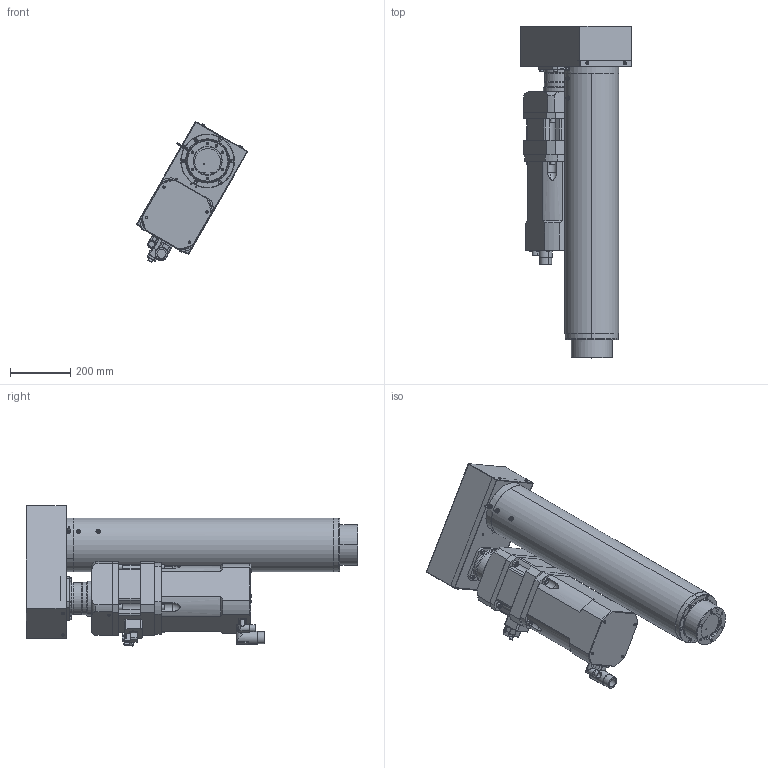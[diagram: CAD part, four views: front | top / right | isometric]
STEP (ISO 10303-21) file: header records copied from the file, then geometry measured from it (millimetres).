
FILE_DESCRIPTION (( 'STEP AP214' ), '1' );
FILE_NAME ('RLWPK060D-055-025SG0.STEP', '2023-04-06T05:43:31', ( '' ), ( '' ), 'SwSTEP 2.0', 'SolidWorks 2021', '' );
FILE_SCHEMA (( 'AUTOMOTIVE_DESIGN' ));
Length unit declared in the file: millimetre
Products named in the file (1): RLWPK060D-055-025SG0
Bounding box: 368.77 x 1097.5 x 465.78 mm (x, y, z)
Volume: 36044844.7 mm3; surface area: 3097238.5 mm2
Topology: 36 solids, 36 shells, 1545 faces, 3665 edges, 2208 vertices
Faces by surface type: plane 587, cylinder 584, cone 246, torus 96, bspline 30, sphere 2
Entity records: 62860 total; most frequent: CARTESIAN_POINT 9556, DIRECTION 7983, ORIENTED_EDGE 7026, EDGE_CURVE 3513, AXIS2_PLACEMENT_3D 3096, VERTEX_POINT 2208, EDGE_LOOP 1819, VECTOR 1791
